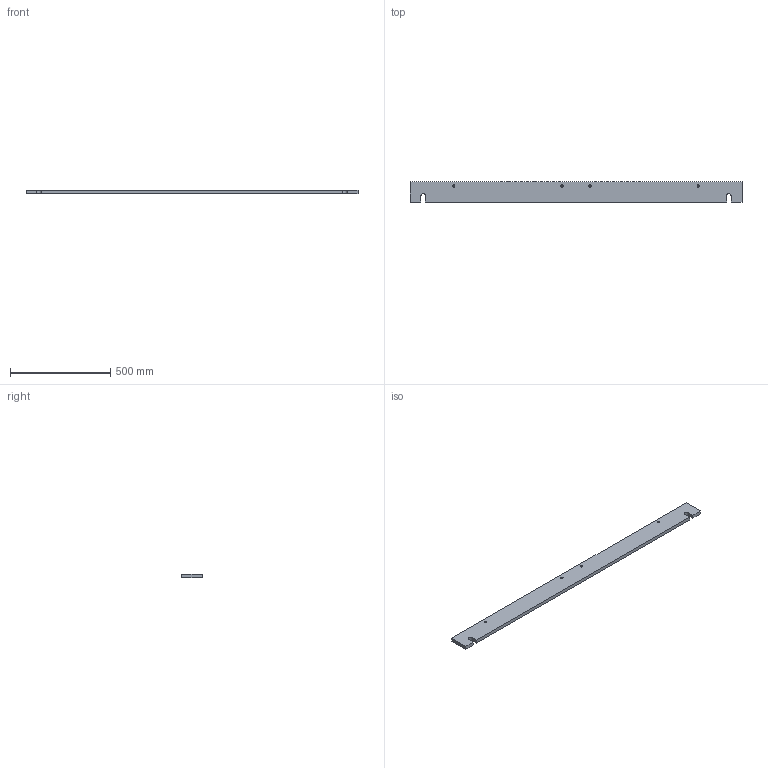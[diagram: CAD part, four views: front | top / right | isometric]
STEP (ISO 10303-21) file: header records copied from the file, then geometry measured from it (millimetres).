
FILE_DESCRIPTION (( 'STEP AP214' ), '1' );
FILE_NAME ('PANAC0041.STEP', '2025-01-27T11:29:46', ( '' ), ( '' ), 'SwSTEP 2.0', 'SolidWorks 2022', '' );
FILE_SCHEMA (( 'AUTOMOTIVE_DESIGN' ));
Length unit declared in the file: millimetre
Products named in the file (1): PANAC0041
Bounding box: 1656 x 100 x 18 mm (x, y, z)
Volume: 2945994 mm3; surface area: 395056.3 mm2
Topology: 1 solids, 1 shells, 38 faces, 92 edges, 52 vertices
Faces by surface type: cone 16, plane 12, cylinder 10
Entity records: 1074 total; most frequent: DIRECTION 190, CARTESIAN_POINT 175, ORIENTED_EDGE 168, EDGE_CURVE 84, AXIS2_PLACEMENT_3D 67, LINE 56, VECTOR 56, VERTEX_POINT 52
